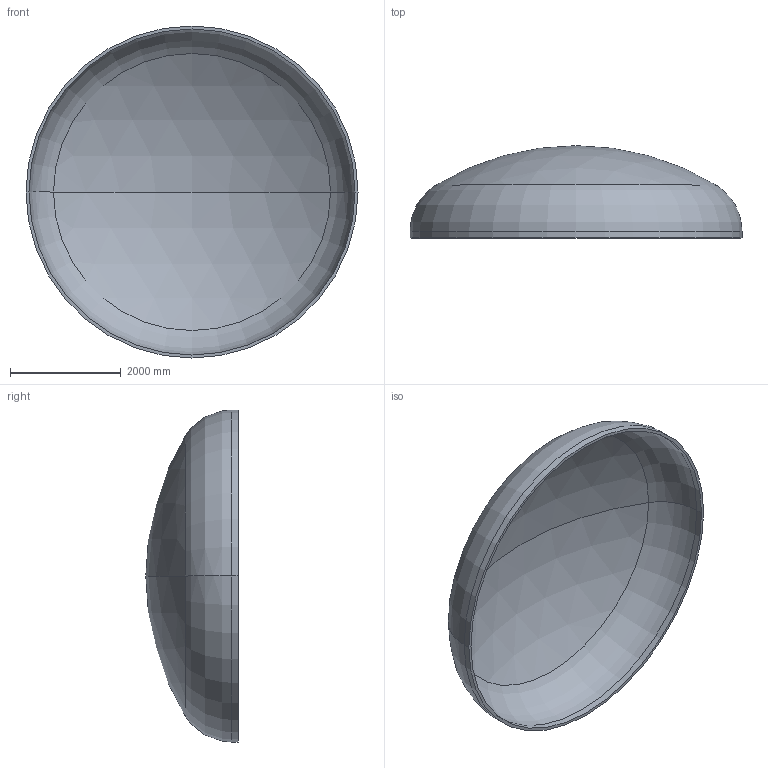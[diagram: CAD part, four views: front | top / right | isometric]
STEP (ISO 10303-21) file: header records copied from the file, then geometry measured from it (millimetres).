
FILE_DESCRIPTION (( 'STEP AP203' ), '1' );
FILE_NAME ('DIN 28013 Korbbogenform_-_Boden DIN 28013 - 6000 x 120 - I - s=54.step', '2016-07-04T10:37:30', ( '' ), ( '' ), 'SwSTEP 2.0', 'SolidWorks 2013', '' );
FILE_SCHEMA (( 'CONFIG_CONTROL_DESIGN' ));
Length unit declared in the file: millimetre
Products named in the file (1): DIN 28013 Korbbogenform_-_Boden DIN 28013 - 6000 x 120 - I - s=54
Bounding box: 6000 x 1667.77 x 6000 mm (x, y, z)
Volume: 2211089630.9 mm3; surface area: 82906999.6 mm2
Topology: 1 solids, 1 shells, 13 faces, 24 edges, 14 vertices
Faces by surface type: torus 4, cylinder 4, sphere 4, plane 1
Entity records: 407 total; most frequent: DIRECTION 72, CARTESIAN_POINT 52, ORIENTED_EDGE 48, AXIS2_PLACEMENT_3D 34, EDGE_CURVE 24, CIRCLE 20, EDGE_LOOP 14, VERTEX_POINT 14
